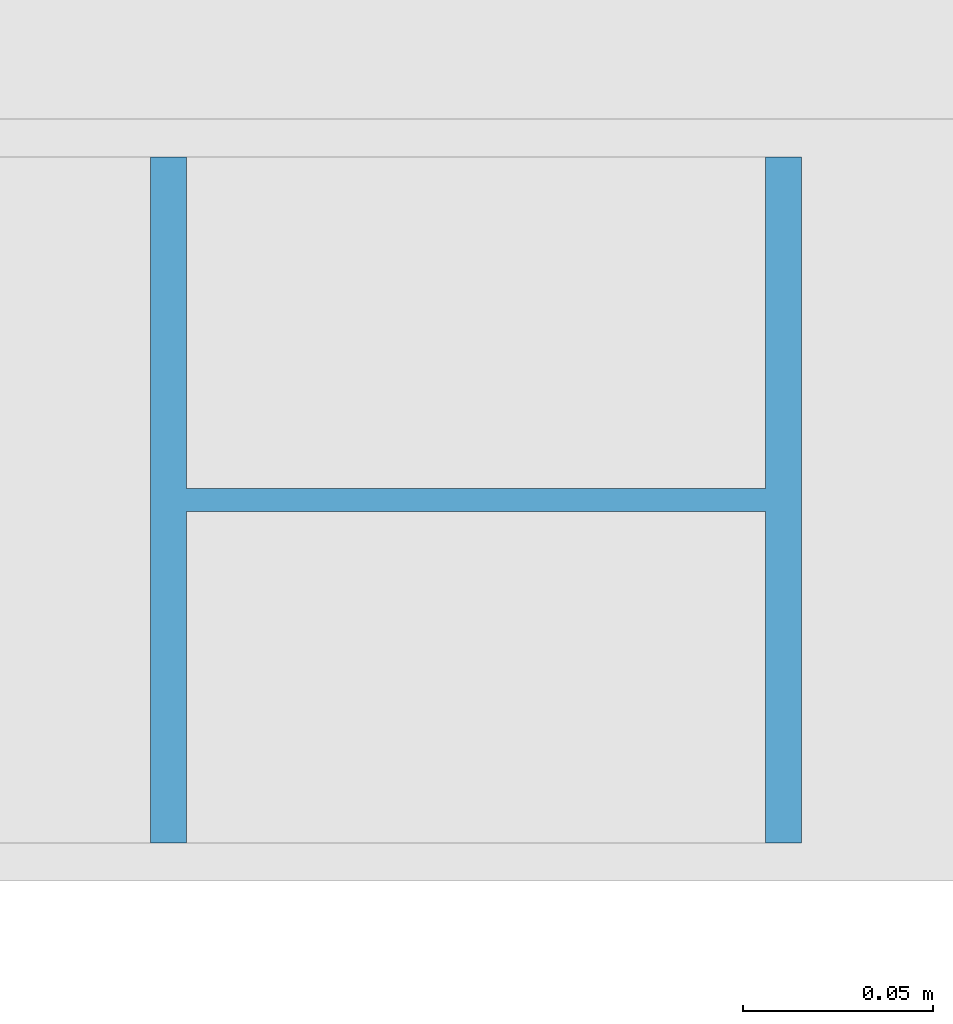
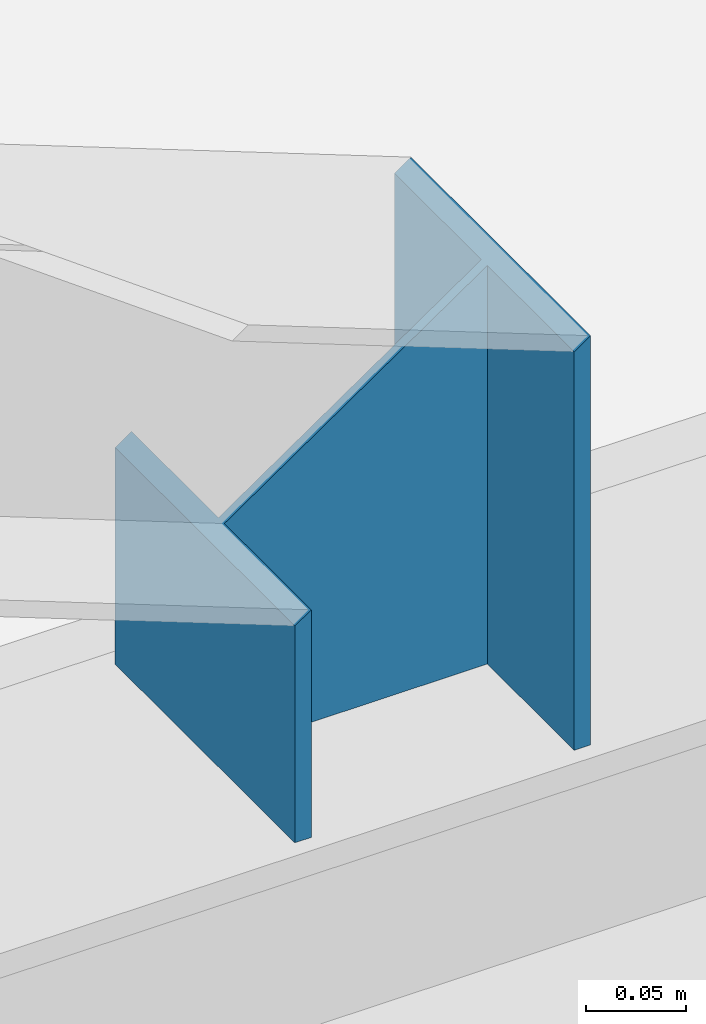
# One storey, part 6 of 10: 1 beam.
"""IFC2X3 building model written with IfcOpenShell, lengths in millimetres."""

from ifc_helpers import new_model, entity, si_unit, converted_unit, derived_unit, direction, frame, frame_2d, origin, place, context, subcontext, project, spatial, i_section, extrude, clip, halfspace, material, type_object, element, save


model = new_model("IFC2X3")

# Units and contexts
model_context = context("Model", 3, precision=0.01, world=origin(), true_north=direction((6.123031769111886e-17, 1.0)))
body_context = subcontext(model_context, "Body", "Model", "MODEL_VIEW")
ifc_project = project(units=[si_unit("LENGTHUNIT", "METRE", prefix="MILLI"), si_unit("AREAUNIT", "SQUARE_METRE", prefix="MILLI"), si_unit("VOLUMEUNIT", "CUBIC_METRE"), converted_unit("PLANEANGLEUNIT", "DEGREE", entity("IfcPlaneAngleMeasure", 0.017453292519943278), si_unit("PLANEANGLEUNIT", "RADIAN"), dimensions=[0, 0, 0, 0, 0, 0, 0]), si_unit("MASSUNIT", "GRAM", prefix="KILO"), derived_unit("MASSDENSITYUNIT", [(si_unit("MASSUNIT", "GRAM", prefix="KILO"), 1), (si_unit("LENGTHUNIT", "METRE"), -3)]), derived_unit("IONCONCENTRATIONUNIT", [(si_unit("MASSUNIT", "GRAM", prefix="KILO"), 1), (si_unit("LENGTHUNIT", "METRE"), -3)]), derived_unit("MOMENTOFINERTIAUNIT", [(si_unit("LENGTHUNIT", "METRE"), 4)]), si_unit("TIMEUNIT", "SECOND"), si_unit("FREQUENCYUNIT", "HERTZ"), si_unit("THERMODYNAMICTEMPERATUREUNIT", "DEGREE_CELSIUS"), derived_unit("THERMALTRANSMITTANCEUNIT", [(si_unit("MASSUNIT", "GRAM", prefix="KILO"), 1), (si_unit("THERMODYNAMICTEMPERATUREUNIT", "KELVIN"), -1), (si_unit("TIMEUNIT", "SECOND"), -3)]), derived_unit("THERMALCONDUCTANCEUNIT", [(si_unit("MASSUNIT", "GRAM", prefix="KILO"), 1), (si_unit("THERMODYNAMICTEMPERATUREUNIT", "KELVIN"), -1), (si_unit("TIMEUNIT", "SECOND"), -3), (si_unit("LENGTHUNIT", "METRE"), 1)]), derived_unit("VOLUMETRICFLOWRATEUNIT", [(si_unit("LENGTHUNIT", "METRE", prefix="DECI"), 3), (si_unit("TIMEUNIT", "SECOND"), -1)]), derived_unit("MASSFLOWRATEUNIT", [(si_unit("MASSUNIT", "GRAM", prefix="KILO"), 1), (si_unit("TIMEUNIT", "SECOND"), -1)]), derived_unit("ROTATIONALFREQUENCYUNIT", [(si_unit("TIMEUNIT", "SECOND"), -1)]), si_unit("ELECTRICCURRENTUNIT", "AMPERE"), si_unit("ELECTRICVOLTAGEUNIT", "VOLT"), si_unit("POWERUNIT", "WATT"), si_unit("FORCEUNIT", "NEWTON", prefix="KILO"), si_unit("ILLUMINANCEUNIT", "LUX"), si_unit("LUMINOUSFLUXUNIT", "LUMEN"), si_unit("LUMINOUSINTENSITYUNIT", "CANDELA"), si_unit("ENERGYUNIT", "JOULE"), derived_unit("USERDEFINED", [(si_unit("MASSUNIT", "GRAM", prefix="KILO"), -1), (si_unit("LENGTHUNIT", "METRE"), -2), (si_unit("TIMEUNIT", "SECOND"), 3), (si_unit("LUMINOUSFLUXUNIT", "LUMEN"), 1)]), derived_unit("USERDEFINED", [(si_unit("MASSUNIT", "GRAM", prefix="KILO"), 1), (si_unit("TIMEUNIT", "SECOND"), -3), (si_unit("LENGTHUNIT", "METRE"), 3), (si_unit("ELECTRICCURRENTUNIT", "AMPERE"), -2)]), derived_unit("SOUNDPOWERUNIT", [(si_unit("MASSUNIT", "GRAM", prefix="KILO"), 1), (si_unit("TIMEUNIT", "SECOND"), -3), (si_unit("LENGTHUNIT", "METRE"), 2)]), derived_unit("SOUNDPRESSUREUNIT", [(si_unit("MASSUNIT", "GRAM", prefix="KILO"), 1), (si_unit("LENGTHUNIT", "METRE"), -1), (si_unit("TIMEUNIT", "SECOND"), -2)]), derived_unit("LINEARVELOCITYUNIT", [(si_unit("LENGTHUNIT", "METRE"), 1), (si_unit("TIMEUNIT", "SECOND"), -1)]), si_unit("PRESSUREUNIT", "PASCAL"), derived_unit("USERDEFINED", [(si_unit("MASSUNIT", "GRAM", prefix="KILO"), 1), (si_unit("LENGTHUNIT", "METRE"), -2), (si_unit("TIMEUNIT", "SECOND"), -2)]), derived_unit("LINEARFORCEUNIT", [(si_unit("MASSUNIT", "GRAM", prefix="KILO"), 1), (si_unit("TIMEUNIT", "SECOND"), -2)]), derived_unit("PLANARFORCEUNIT", [(si_unit("MASSUNIT", "GRAM", prefix="KILO"), 1), (si_unit("LENGTHUNIT", "METRE"), -1), (si_unit("TIMEUNIT", "SECOND"), -2)]), derived_unit("SPECIFICHEATCAPACITYUNIT", [(si_unit("THERMODYNAMICTEMPERATUREUNIT", "KELVIN"), -1), (si_unit("LENGTHUNIT", "METRE"), 2), (si_unit("TIMEUNIT", "SECOND"), -2)]), derived_unit("HEATFLUXDENSITYUNIT", [(si_unit("MASSUNIT", "GRAM", prefix="KILO"), 1), (si_unit("TIMEUNIT", "SECOND"), -3)]), derived_unit("HEATINGVALUEUNIT", [(si_unit("LENGTHUNIT", "METRE"), 2), (si_unit("TIMEUNIT", "SECOND"), -2)]), derived_unit("VAPORPERMEABILITYUNIT", [(si_unit("LENGTHUNIT", "METRE"), -1), (si_unit("TIMEUNIT", "SECOND"), 1)]), derived_unit("DYNAMICVISCOSITYUNIT", [(si_unit("MASSUNIT", "GRAM", prefix="KILO"), 1), (si_unit("TIMEUNIT", "SECOND"), -1), (si_unit("LENGTHUNIT", "METRE"), -1)]), derived_unit("THERMALEXPANSIONCOEFFICIENTUNIT", [(si_unit("THERMODYNAMICTEMPERATUREUNIT", "KELVIN"), -1)]), derived_unit("MODULUSOFELASTICITYUNIT", [(si_unit("MASSUNIT", "GRAM", prefix="KILO"), 1), (si_unit("LENGTHUNIT", "METRE"), -1), (si_unit("TIMEUNIT", "SECOND"), -2)]), derived_unit("ISOTHERMALMOISTURECAPACITYUNIT", [(si_unit("MASSUNIT", "GRAM", prefix="KILO"), -1), (si_unit("LENGTHUNIT", "METRE"), 3)]), derived_unit("MOISTUREDIFFUSIVITYUNIT", [(si_unit("TIMEUNIT", "SECOND"), -1), (si_unit("LENGTHUNIT", "METRE"), 2)]), derived_unit("MASSPERLENGTHUNIT", [(si_unit("MASSUNIT", "GRAM", prefix="KILO"), 1), (si_unit("LENGTHUNIT", "METRE"), -1)]), derived_unit("THERMALRESISTANCEUNIT", [(si_unit("MASSUNIT", "GRAM", prefix="KILO"), -1), (si_unit("TIMEUNIT", "SECOND"), 3), (si_unit("THERMODYNAMICTEMPERATUREUNIT", "KELVIN"), 1)]), derived_unit("ACCELERATIONUNIT", [(si_unit("LENGTHUNIT", "METRE"), 1), (si_unit("TIMEUNIT", "SECOND"), -2)]), derived_unit("ANGULARVELOCITYUNIT", [(si_unit("TIMEUNIT", "SECOND"), -1), (si_unit("PLANEANGLEUNIT", "RADIAN"), 1)]), derived_unit("LINEARSTIFFNESSUNIT", [(si_unit("MASSUNIT", "GRAM", prefix="KILO"), 1), (si_unit("TIMEUNIT", "SECOND"), -2)]), derived_unit("WARPINGCONSTANTUNIT", [(si_unit("LENGTHUNIT", "METRE"), 6)]), derived_unit("LINEARMOMENTUNIT", [(si_unit("MASSUNIT", "GRAM", prefix="KILO"), 1), (si_unit("LENGTHUNIT", "METRE"), 1), (si_unit("TIMEUNIT", "SECOND"), -2)]), derived_unit("TORQUEUNIT", [(si_unit("MASSUNIT", "GRAM", prefix="KILO"), 1), (si_unit("LENGTHUNIT", "METRE"), 2), (si_unit("TIMEUNIT", "SECOND"), -2)])], contexts=[model_context])

# Site, building, storey
site_placement = place(None, origin())
site = spatial("IfcSite", under=ifc_project, at=site_placement, Name="Default", CompositionType="ELEMENT")
building_placement = place(site_placement, origin())
building = spatial("IfcBuilding", under=site, at=building_placement, CompositionType="ELEMENT")
storey_placement = place(building_placement, frame((0.0, 0.0, 10840.0)))
storey = spatial("IfcBuildingStorey", under=building, at=storey_placement, Name="V3 dakvloer", CompositionType="ELEMENT", Elevation=10839.99999999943)

# Beam
ifc_material = material(Name="Metal - Steel - S235 JRG2 (standaard)")
beam_type = type_object("IfcBeamType", Name="btl_staal - HE(a-b-m):HEA180", PredefinedType="NOTDEFINED")
beam_placement = place(storey_placement, frame((28524.98614212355, 25344.605013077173, -10.0), z_axis=(1.0, 0.0, 0.0), x_axis=(0.0, 0.0, 1.0)))
element("IfcBeam", 1, at=beam_placement, inside=storey, type_object=beam_type, material=ifc_material, Name="btl_staal - HE(a-b-m):HEA180", ObjectType="btl_staal - HE(a-b-m):HEA180", context=body_context, shape_type="SweptSolid", body=[
    clip(extrude(i_section(OverallWidth=179.99999999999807, OverallDepth=171.0000000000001, WebThickness=5.999999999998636, FlangeThickness=9.500000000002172, at=frame_2d((-2.1671553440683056e-12, -6.494360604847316e-12), x_axis=(0.0, 1.0))), frame((0.0, 0.0, -85.50000000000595), z_axis=(1.0, 0.0, 0.0), x_axis=(0.0, 0.0, -1.0)), (0.0, 0.0, 1.0), 250.10570790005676), halfspace(frame((250.1057079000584, 0.0, 0.0), z_axis=(0.8240706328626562, 0.0, -0.5664870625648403), x_axis=(0.5664870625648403, 0.0, 0.8240706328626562)), False)),
])

save(model, "model.ifc")
